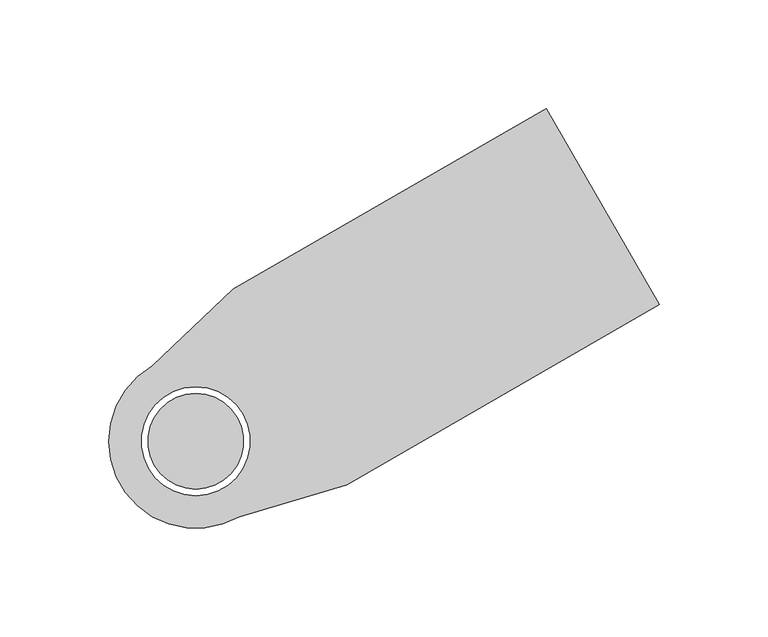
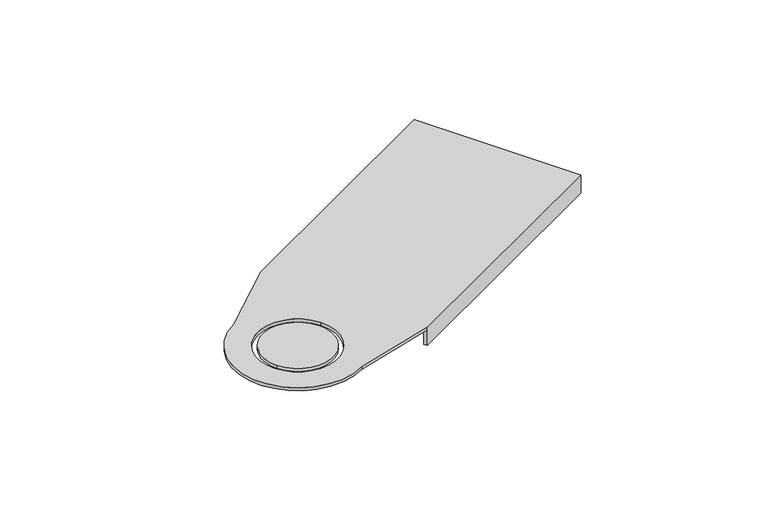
"""IFC4 building model written with IfcOpenShell, lengths in millimetres: cable carrier fitting geometry, BAKS_LDLS_BEND_Articulated connector for LLDS_LGSU : LGSUC_H100."""

from ifc_helpers import new_model, si_unit, frame, origin, place, context, project, spatial, polyline, circle_curve, source, transform, mapped, element, save
from ifc_brep_helpers import plane_surface, cylinder_surface, revolved_surface, advanced_brep


def cable_carrier_fitting_043f85b0(model_context):
    return source(origin(), model_context, "Body", "AdvancedBrep", [
        advanced_brep(
        [(161.0614872, 153.033321, 2.0), (17.3012702, 70.033321, 2.0), (-20.0, 34.6410162, 2.0), (20.0, -34.6410162, 2.0), (69.3012702, -20.033321, 2.0), (213.0614872, 62.966679, 2.0), (-21.6506351, -12.5, 2.0), (21.6506351, 12.5, 2.0), (69.3012702, -20.033321, 0.0), (20.0, -34.6410162, 0.0), (-20.0, 34.6410162, 0.0), (17.3012702, 70.033321, 0.0), (18.3012702, 68.3012702, 0.0), (162.0614872, 151.3012702, 0.0), (212.0614872, 64.6987298, 0.0), (68.3012702, -18.3012702, 0.0), (21.6506351, 12.5, 0.0), (-21.6506351, -12.5, 0.0), (161.0614872, 153.033321, -10.0), (17.3012702, 70.033321, -10.0), (69.3012702, -20.033321, -10.0), (213.0614872, 62.966679, -10.0), (212.0614872, 64.6987298, -10.0), (162.0614872, 151.3012702, -10.0), (68.3012702, -18.3012702, -10.0), (18.3012702, 68.3012702, -10.0)],
        [
            (0, 1),
            (1, 2),
            (2, 3, circle_curve(frame((0.0, 0.0, 2.0), z_axis=(0.0, 0.0, 1.0), x_axis=(0.8660254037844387, 0.49999999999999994, 0.0)), 40.0)),
            (3, 4),
            (4, 5),
            (5, 0),
            (6, 7, circle_curve(frame((0.0, 0.0, 2.0), z_axis=(0.0, 0.0, -1.0), x_axis=(0.8660254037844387, 0.49999999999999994, 0.0)), 25.0)),
            (7, 6, circle_curve(frame((0.0, 0.0, 2.0), z_axis=(0.0, 0.0, -1.0), x_axis=(0.8660254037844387, 0.49999999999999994, 0.0)), 25.0)),
            (8, 9),
            (9, 10, circle_curve(frame((0.0, 0.0, 0.0), z_axis=(0.0, 0.0, -1.0), x_axis=(0.8660254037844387, 0.49999999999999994, 0.0)), 40.0)),
            (10, 11),
            (11, 12),
            (12, 13),
            (13, 14),
            (14, 15),
            (15, 8),
            (16, 17, circle_curve(frame((0.0, 0.0, 0.0), z_axis=(0.0, 0.0, 1.0), x_axis=(0.8660254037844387, 0.49999999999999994, 0.0)), 25.0)),
            (17, 16, circle_curve(frame((0.0, 0.0, 0.0), z_axis=(0.0, 0.0, 1.0), x_axis=(0.8660254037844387, 0.49999999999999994, 0.0)), 25.0)),
            (0, 18),
            (18, 19),
            (19, 11),
            (11, 1),
            (4, 8),
            (8, 20),
            (20, 21),
            (21, 5),
            (21, 22),
            (22, 14),
            (13, 23),
            (23, 18),
            (6, 17),
            (16, 7),
            (10, 2),
            (9, 3),
            (20, 24),
            (24, 22),
            (24, 15),
            (23, 25),
            (25, 19),
            (25, 12),
        ],
        [
            plane_surface(frame((17.3012702, 70.033321, 2.0), z_axis=(0.0, 0.0, 1.0), x_axis=(-0.8660254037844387, -0.49999999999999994, 0.0))),
            plane_surface(frame((17.3012702, 70.033321, 0.0), z_axis=(0.0, 0.0, -1.0), x_axis=(0.8660254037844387, 0.49999999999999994, 0.0))),
            plane_surface(frame((161.0614872, 153.033321, 2.0), z_axis=(-0.49999999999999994, 0.8660254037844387, 0.0), x_axis=(0.0, 0.0, -1.0))),
            plane_surface(frame((69.3012702, -20.033321, 2.0), z_axis=(0.49999999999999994, -0.8660254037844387, 0.0), x_axis=(0.0, 0.0, -1.0))),
            plane_surface(frame((213.0614872, 62.966679, 2.0), z_axis=(0.8660254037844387, 0.49999999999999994, 0.0), x_axis=(0.0, 0.0, -1.0))),
            revolved_surface(polyline([(21.65063509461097, 12.499999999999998, 2.0), (21.65063509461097, 12.499999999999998, 0.0)]), (0.0, 0.0, 0.0), (0.0, 0.0, 1.0)),
            plane_surface(frame((17.3012702, 70.033321, 2.0), z_axis=(-0.688300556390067, 0.7254256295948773, 0.0), x_axis=(0.0, 0.0, -1.0))),
            cylinder_surface(frame((0.0, 0.0, 0.0), z_axis=(0.0, 0.0, 1.0), x_axis=(0.8660254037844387, 0.49999999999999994, 0.0)), 40.0),
            plane_surface(frame((20.0, -34.6410162, 2.0), z_axis=(0.28408674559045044, -0.9587985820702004, 0.0), x_axis=(0.0, 0.0, -1.0))),
            plane_surface(frame((68.3012702, -18.3012702, -10.0), z_axis=(0.0, 0.0, -1.0), x_axis=(0.8660254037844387, 0.49999999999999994, 0.0))),
            plane_surface(frame((212.0614872, 64.6987298, 0.0), z_axis=(-0.49999999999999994, 0.8660254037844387, 0.0), x_axis=(0.0, 0.0, -1.0))),
            plane_surface(frame((68.3012702, -18.3012702, 0.0), z_axis=(-0.8660254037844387, -0.49999999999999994, 0.0), x_axis=(0.0, 0.0, -1.0))),
            plane_surface(frame((17.3012702, 70.033321, -10.0), z_axis=(0.0, 0.0, -1.0), x_axis=(0.8660254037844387, 0.49999999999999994, 0.0))),
            plane_surface(frame((17.3012702, 70.033321, 0.0), z_axis=(-0.8660254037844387, -0.49999999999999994, 0.0), x_axis=(0.0, 0.0, -1.0))),
            plane_surface(frame((18.3012702, 68.3012702, 0.0), z_axis=(0.49999999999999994, -0.8660254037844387, 0.0), x_axis=(0.0, 0.0, -1.0))),
        ],
        [
            (0, [[1, 2, 3, 4, 5, 6], [7, 8]]),
            (1, [[9, 10, 11, 12, 13, 14, 15, 16], [17, 18]]),
            (2, [[-1, 19, 20, 21, 22]]),
            (3, [[-5, 23, 24, 25, 26]]),
            (4, [[-19, -6, -26, 27, 28, -14, 29, 30]]),
            (5, [[31, -17, 32, -7]]),
            (5, [[-31, -8, -32, -18]]),
            (6, [[-2, -22, -11, 33]]),
            (7, [[-3, -33, -10, 34]]),
            (8, [[-4, -34, -9, -23]]),
            (9, [[-27, -25, 35, 36]]),
            (10, [[-36, 37, -15, -28]]),
            (11, [[-35, -24, -16, -37]]),
            (12, [[-30, 38, 39, -20]]),
            (13, [[-39, 40, -12, -21]]),
            (14, [[-38, -29, -13, -40]]),
        ],
    ),
        advanced_brep(
        [(-19.0525589, -11.0, 2.0), (19.0525589, 11.0, 2.0), (19.0525589, 11.0, 0.0), (-19.0525589, -11.0, 0.0)],
        [
            (0, 1, circle_curve(frame((0.0, 0.0, 2.0), z_axis=(0.0, 0.0, 1.0), x_axis=(0.8660254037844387, 0.49999999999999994, 0.0)), 22.0)),
            (1, 0, circle_curve(frame((0.0, 0.0, 2.0), z_axis=(0.0, 0.0, 1.0), x_axis=(0.8660254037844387, 0.49999999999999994, 0.0)), 22.0)),
            (2, 3, circle_curve(frame((0.0, 0.0, 0.0), z_axis=(0.0, 0.0, -1.0), x_axis=(0.8660254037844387, 0.49999999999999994, 0.0)), 22.0)),
            (3, 2, circle_curve(frame((0.0, 0.0, 0.0), z_axis=(0.0, 0.0, -1.0), x_axis=(0.8660254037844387, 0.49999999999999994, 0.0)), 22.0)),
            (0, 3),
            (2, 1),
        ],
        [
            plane_surface(frame((17.3012702, 70.033321, 2.0), z_axis=(0.0, 0.0, 1.0), x_axis=(-0.8660254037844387, -0.49999999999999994, 0.0))),
            plane_surface(frame((17.3012702, 70.033321, 0.0), z_axis=(0.0, 0.0, -1.0), x_axis=(0.8660254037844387, 0.49999999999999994, 0.0))),
            cylinder_surface(frame((0.0, 0.0, 0.0), z_axis=(0.0, 0.0, -1.0), x_axis=(0.8660254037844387, 0.49999999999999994, 0.0)), 22.0),
        ],
        [
            (0, [[1, 2]]),
            (1, [[3, 4]]),
            (2, [[5, -3, 6, -1]]),
            (2, [[-5, -2, -6, -4]]),
        ],
    ),
    ])


if __name__ == "__main__":
    model = new_model("IFC4")
    model_context = context("Model", 3, world=origin())
    ifc_project = project(units=[si_unit("LENGTHUNIT", "METRE", prefix="MILLI")], contexts=[model_context])
    site = spatial("IfcSite", under=ifc_project)
    building = spatial("IfcBuilding", under=site)
    placement = place(None, origin())
    cable_carrier_fitting_shape = cable_carrier_fitting_043f85b0(model_context)
    element("IfcCableCarrierFitting", 1, ObjectType="BAKS_LDLS_BEND_Articulated connector for LLDS_LGSU : LGSUC_H100", at=placement, inside=building, context=model_context, shape_type="MappedRepresentation", body=[
        mapped(cable_carrier_fitting_shape, transform((0.0, 0.0, 0.0), x_axis=(1.0, 0.0, 0.0), y_axis=(0.0, 1.0, 0.0), z_axis=(0.0, 0.0, 1.0))),
    ])
    save(model, "model.ifc")
